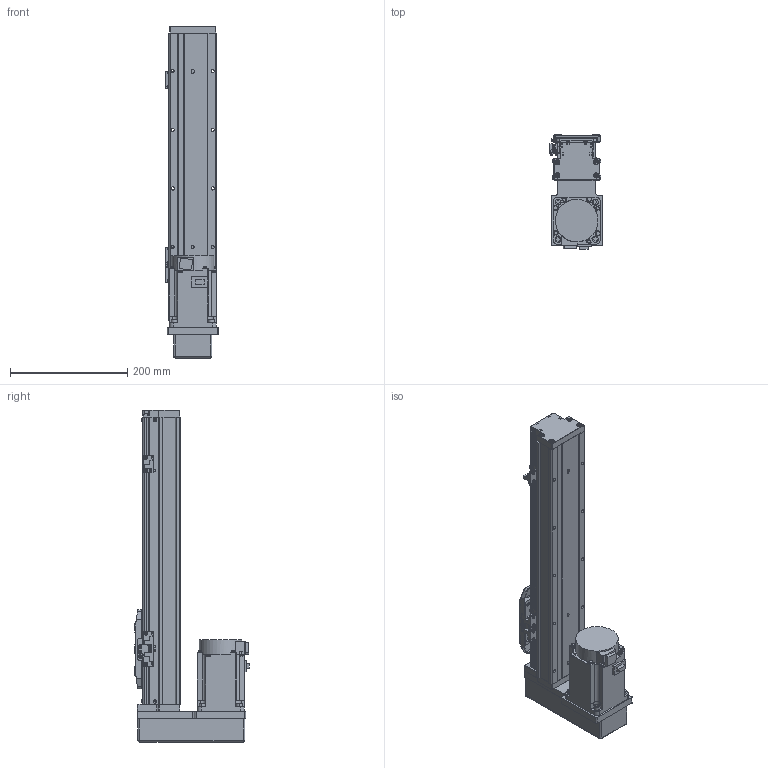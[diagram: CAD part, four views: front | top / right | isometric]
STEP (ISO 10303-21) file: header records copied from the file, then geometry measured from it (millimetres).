
FILE_DESCRIPTION (( 'STEP AP203' ), '1' );
FILE_NAME ('GTH8-300-BM-M75-C4.step', '2023-02-14T02:28:04', ( '微软用户' ), ( '微软中国' ), 'SwSTEP 2.0', 'SolidWorks 2020', '' );
FILE_SCHEMA (( 'CONFIG_CONTROL_DESIGN' ));
Length unit declared in the file: millimetre
Products named in the file (18): GBT 70.3-M3℅6; GBT96.1-2002 3×0.8; GTH80-022; BTH-M3X5X6; GTH80-001_300; GBT 70.1-M3℅6; CTHA86-015-3_CTHA86-015-4; GTH80-003; GBT 70.1-M4×16; CTHA86-035; GTH80-004; GTH80-028; hg-kn73j_-s100; GTH80-006; GTH50-024; GTH8-300-BM-M75-C4; GTH80-013; GTH50-023
Assembly tree (57 placements, depth 2):
  GTH8-300-BM-M75-C4
    GTH80-001_300
    GTH80-003
    GTH80-004
    GTH80-006
    GTH80-013
    GBT 70.3-M3℅6  x4
    GTH80-022
    GBT 70.1-M3℅6  x14
    GBT 70.1-M4×16  x8
    GTH80-028  x2
    GTH50-024  x3
    GTH50-023  x3
    GBT96.1-2002 3×0.8  x6
    BTH-M3X5X6  x8
    CTHA86-015-3_CTHA86-015-4
    CTHA86-035
    hg-kn73j_-s100
Bounding box: 89.4 x 195.3 x 566 mm (x, y, z)
Volume: 3669779 mm3; surface area: 404889.2 mm2
Topology: 59 solids, 59 shells, 2183 faces, 5058 edges, 3096 vertices
Faces by surface type: plane 1153, cylinder 615, cone 243, torus 158, sphere 12, bspline 2
Entity records: 39144 total; most frequent: CARTESIAN_POINT 6575, DIRECTION 6445, ORIENTED_EDGE 5926, EDGE_CURVE 2963, AXIS2_PLACEMENT_3D 2266, VECTOR 1913, LINE 1913, VERTEX_POINT 1871
